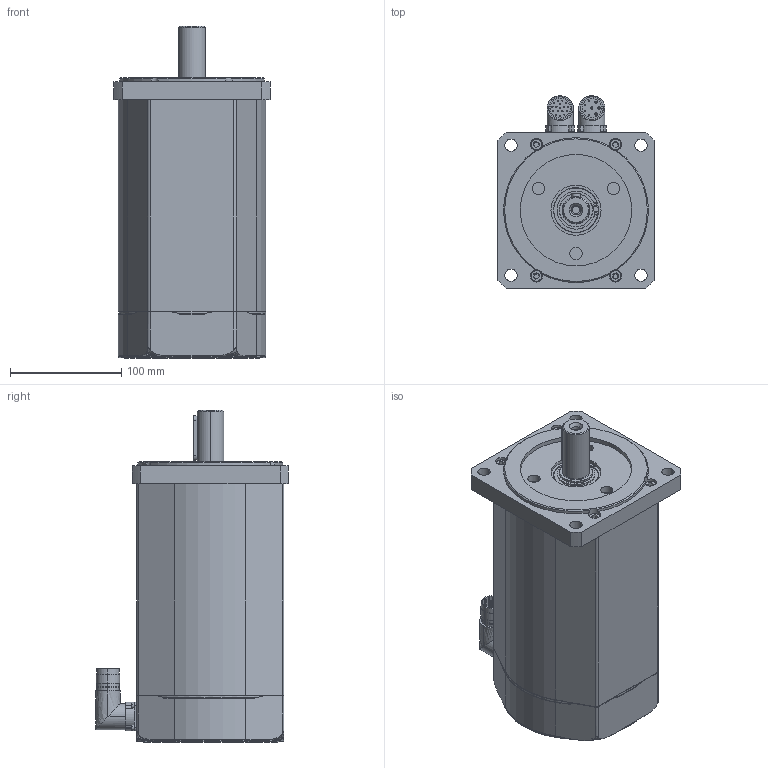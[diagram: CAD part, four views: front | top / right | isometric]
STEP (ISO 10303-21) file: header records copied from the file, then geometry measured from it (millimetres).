
FILE_DESCRIPTION (( 'STEP AP203' ), '1' );
FILE_NAME ('SSAX140M_SF.STEP', '2015-09-10T12:59:56', ( 'Tecnico motori' ), ( '' ), 'SwSTEP 2.0', 'SolidWorks 2010', '' );
FILE_SCHEMA (( 'CONFIG_CONTROL_DESIGN' ));
Length unit declared in the file: millimetre
Products named in the file (1): SSAX140M_SF
Bounding box: 140 x 173 x 297.85 mm (x, y, z)
Surface area: 185876.8 mm2 (no closed solid volume)
Topology: 0 solids, 32 shells, 454 faces, 1268 edges, 876 vertices
Faces by surface type: cylinder 211, plane 184, cone 29, torus 24, bspline 6
Entity records: 15771 total; most frequent: CARTESIAN_POINT 3685, DIRECTION 2706, ORIENTED_EDGE 2199, EDGE_CURVE 1268, AXIS2_PLACEMENT_3D 1063, VERTEX_POINT 876, CIRCLE 614, VECTOR 580
